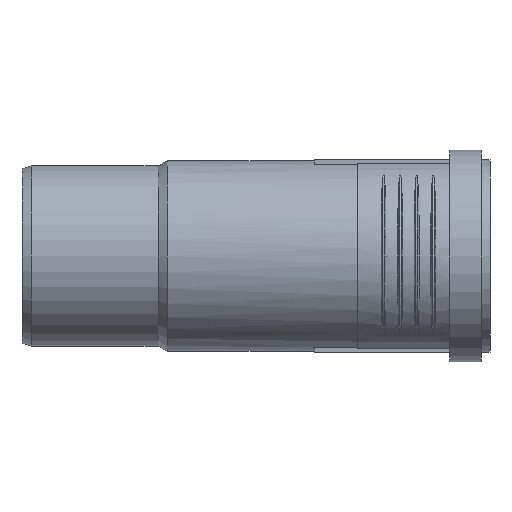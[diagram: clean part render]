
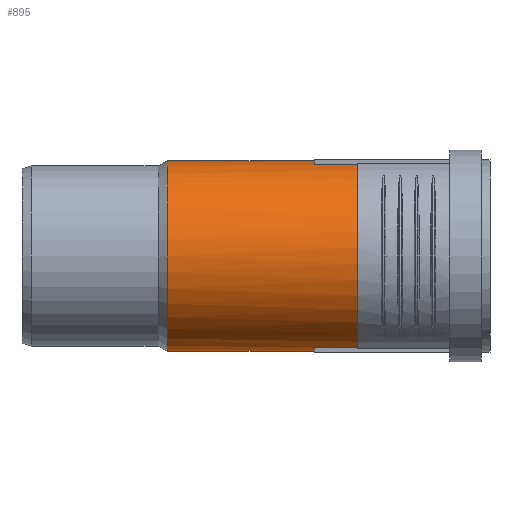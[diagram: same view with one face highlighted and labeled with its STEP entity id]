
A CAD part, front view. The second image highlights one B-rep face of the part: STEP entity #895.
In plain terms, the highlighted cylindrical face has radius 40.4 mm (diameter 80.8 mm), a full revolution.
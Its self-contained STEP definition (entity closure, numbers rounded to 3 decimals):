
#86=LINE($,#1239,#114);
#95=LINE($,#1259,#123);
#104=LINE($,#2137,#132);
#110=LINE($,#2150,#138);
#114=VECTOR($,#1024,18.29);
#123=VECTOR($,#1039,18.29);
#132=VECTOR($,#1072,18.29);
#138=VECTOR($,#1084,18.29);
#143=CYLINDRICAL_SURFACE($,#980,40.4);
#181=FACE_BOUND($,#298,.T.);
#234=FACE_OUTER_BOUND($,#297,.T.);
#297=EDGE_LOOP($,(#763,#764,#765,#766,#767,#768,#769,#770));
#298=EDGE_LOOP($,(#771));
#326=CIRCLE($,#920,40.4);
#332=CIRCLE($,#932,40.4);
#333=CIRCLE($,#935,40.4);
#350=CIRCLE($,#979,40.4);
#351=CIRCLE($,#981,40.4);
#368=VERTEX_POINT($,#1236);
#369=VERTEX_POINT($,#1238);
#372=VERTEX_POINT($,#1246);
#377=VERTEX_POINT($,#1258);
#433=VERTEX_POINT($,#2132);
#434=VERTEX_POINT($,#2136);
#436=VERTEX_POINT($,#2142);
#438=VERTEX_POINT($,#2149);
#439=VERTEX_POINT($,#2194);
#456=EDGE_CURVE($,#369,#368,#86,.T.);
#460=EDGE_CURVE($,#372,#369,#326,.T.);
#466=EDGE_CURVE($,#377,#372,#95,.T.);
#527=EDGE_CURVE($,#377,#433,#332,.T.);
#529=EDGE_CURVE($,#434,#433,#104,.T.);
#532=EDGE_CURVE($,#436,#434,#333,.T.);
#536=EDGE_CURVE($,#438,#436,#110,.T.);
#554=EDGE_CURVE($,#439,#439,#350,.T.);
#555=EDGE_CURVE($,#438,#368,#351,.T.);
#763=ORIENTED_EDGE($,*,*,#456,.T.);
#764=ORIENTED_EDGE($,*,*,#555,.F.);
#765=ORIENTED_EDGE($,*,*,#536,.T.);
#766=ORIENTED_EDGE($,*,*,#532,.T.);
#767=ORIENTED_EDGE($,*,*,#529,.T.);
#768=ORIENTED_EDGE($,*,*,#527,.F.);
#769=ORIENTED_EDGE($,*,*,#466,.T.);
#770=ORIENTED_EDGE($,*,*,#460,.T.);
#771=ORIENTED_EDGE($,*,*,#554,.T.);
#895=ADVANCED_FACE($,(#234,#181),#143,.T.);
#920=AXIS2_PLACEMENT_3D($,#1247,#1030,#1031);
#932=AXIS2_PLACEMENT_3D($,#2133,#1067,#1068);
#935=AXIS2_PLACEMENT_3D($,#2143,#1077,#1078);
#979=AXIS2_PLACEMENT_3D($,#2195,#1170,#1171);
#980=AXIS2_PLACEMENT_3D($,#2196,#1172,#1173);
#981=AXIS2_PLACEMENT_3D($,#2197,#1174,#1175);
#1024=DIRECTION($,(1.,0.,0.));
#1030=DIRECTION('center_axis',(-1.,0.,0.));
#1031=DIRECTION('ref_axis',(0.,1.,0.));
#1039=DIRECTION($,(-1.,0.,0.));
#1067=DIRECTION('center_axis',(1.,0.,0.));
#1068=DIRECTION('ref_axis',(0.,1.,0.));
#1072=DIRECTION($,(1.,0.,0.));
#1077=DIRECTION('center_axis',(-1.,0.,0.));
#1078=DIRECTION('ref_axis',(0.,1.,0.));
#1084=DIRECTION($,(-1.,0.,0.));
#1170=DIRECTION('center_axis',(1.,0.,0.));
#1171=DIRECTION('ref_axis',(0.,1.,0.));
#1172=DIRECTION('center_axis',(1.,0.,0.));
#1173=DIRECTION('ref_axis',(0.,1.,0.));
#1174=DIRECTION('center_axis',(1.,0.,0.));
#1175=DIRECTION('ref_axis',(0.,1.,0.));
#1236=CARTESIAN_POINT('',(142.,11.5,38.729));
#1238=CARTESIAN_POINT('',(123.71,11.5,38.729));
#1239=CARTESIAN_POINT($,(101.775,11.5,38.729));
#1246=CARTESIAN_POINT('',(123.71,-11.5,38.729));
#1247=CARTESIAN_POINT('Origin',(123.71,0.,0.));
#1258=CARTESIAN_POINT('',(142.,-11.5,38.729));
#1259=CARTESIAN_POINT($,(101.775,-11.5,38.729));
#2132=CARTESIAN_POINT('',(142.,-11.5,-38.729));
#2133=CARTESIAN_POINT('Origin',(142.,0.,0.));
#2136=CARTESIAN_POINT('',(123.71,-11.5,-38.729));
#2137=CARTESIAN_POINT($,(101.775,-11.5,-38.729));
#2142=CARTESIAN_POINT('',(123.71,11.5,-38.729));
#2143=CARTESIAN_POINT('Origin',(123.71,0.,0.));
#2149=CARTESIAN_POINT('',(142.,11.5,-38.729));
#2150=CARTESIAN_POINT($,(101.775,11.5,-38.729));
#2194=CARTESIAN_POINT('',(61.55,40.4,0.));
#2195=CARTESIAN_POINT('Origin',(61.55,0.,0.));
#2196=CARTESIAN_POINT('Origin',(101.775,0.,0.));
#2197=CARTESIAN_POINT('Origin',(142.,0.,0.));
